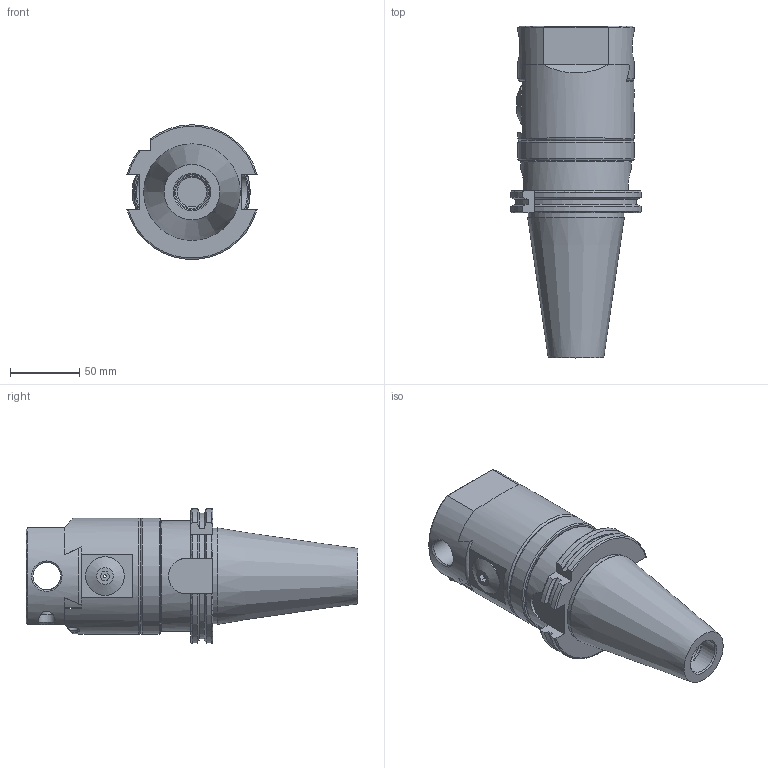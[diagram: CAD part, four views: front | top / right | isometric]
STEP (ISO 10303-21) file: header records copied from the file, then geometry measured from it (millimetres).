
FILE_DESCRIPTION(/* description */ (''),/* implementation_level */ '2;1');
FILE_NAME(/* name */ 'SK50-NBH2084.stp',/* time_stamp */ '2025-12-08T10:31:08+03:00',/* author */ ('User'),/* organization */ (''),/* preprocessor_version */ 'ST-DEVELOPER v19.2',/* originating_system */ 'Autodesk Inventor 2024',/* authorisation */ '');
FILE_SCHEMA (('AUTOMOTIVE_DESIGN { 1 0 10303 214 3 1 1 }'));
Length unit declared in the file: millimetre
Products named in the file (1): D75 2x2
Bounding box: 94.05 x 240 x 97.31 mm (x, y, z)
Volume: 874176.9 mm3; surface area: 129067.7 mm2
Topology: 3 solids, 7 shells, 204 faces, 502 edges, 330 vertices
Faces by surface type: plane 119, cylinder 49, cone 19, torus 12, bspline 5
Full cylindrical faces by diameter (mm): 2 x1, 6.647 x4, 7.8 x3, 8 x3, 10 x1, 11 x1, 11.8 x3, 12 x3, 20 x7, 21.5 x1, 25 x1, 28 x1, 32.179 x1, 35 x1, 66.932 x1, 69 x1, 80 x1, 84 x2
Entity records: 7683 total; most frequent: CARTESIAN_POINT 2695, DIRECTION 1002, ORIENTED_EDGE 996, EDGE_CURVE 498, AXIS2_PLACEMENT_3D 369, VERTEX_POINT 330, LINE 264, VECTOR 264
